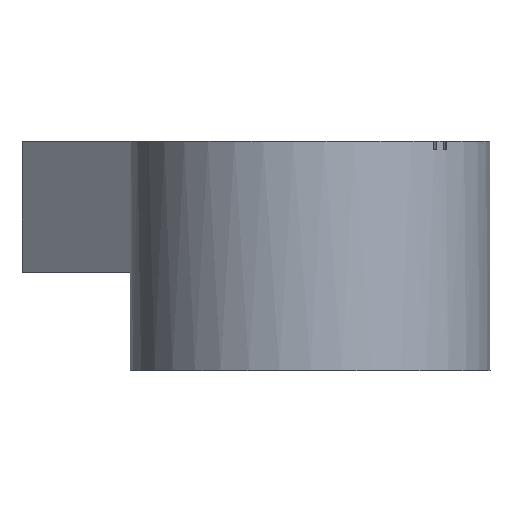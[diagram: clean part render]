
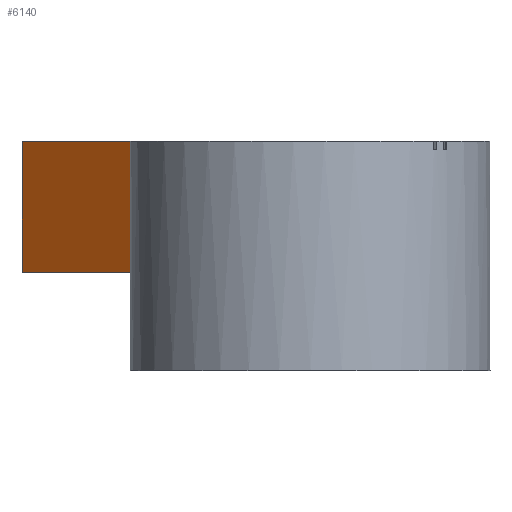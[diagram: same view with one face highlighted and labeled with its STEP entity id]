
A CAD part, left-side view. The second image highlights one B-rep face of the part: STEP entity #6140.
In plain terms, the highlighted planar face has unit normal (-0.768, 0.64, 0) as drawn and (0, 1, 0) by its records, which use the part's own axes.
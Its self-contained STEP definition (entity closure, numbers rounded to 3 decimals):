
#39 = EDGE_CURVE('',#40,#42,#44,.T.);
#40 = VERTEX_POINT('',#41);
#41 = CARTESIAN_POINT('',(4.899,2.5,3.5));
#42 = VERTEX_POINT('',#43);
#43 = CARTESIAN_POINT('',(9.372,2.5,3.5));
#44 = SURFACE_CURVE('',#45,(#49,#61),.PCURVE_S1.);
#45 = LINE('',#46,#47);
#46 = CARTESIAN_POINT('',(0.,2.5,3.5));
#47 = VECTOR('',#48,1.);
#48 = DIRECTION('',(1.,0.,0.));
#49 = PCURVE('',#50,#55);
#50 = PLANE('',#51);
#51 = AXIS2_PLACEMENT_3D('',#52,#53,#54);
#52 = CARTESIAN_POINT('',(0.,0.,3.5));
#53 = DIRECTION('',(0.,0.,1.));
#54 = DIRECTION('',(1.,0.,-0.));
#55 = DEFINITIONAL_REPRESENTATION('',(#56),#60);
#56 = LINE('',#57,#58);
#57 = CARTESIAN_POINT('',(0.,2.5));
#58 = VECTOR('',#59,1.);
#59 = DIRECTION('',(1.,0.));
#60 = ( GEOMETRIC_REPRESENTATION_CONTEXT(2) 
PARAMETRIC_REPRESENTATION_CONTEXT() REPRESENTATION_CONTEXT('2D SPACE',''
  ) );
#61 = PCURVE('',#62,#67);
#62 = PLANE('',#63);
#63 = AXIS2_PLACEMENT_3D('',#64,#65,#66);
#64 = CARTESIAN_POINT('',(0.,2.5,-0.5));
#65 = DIRECTION('',(0.,1.,0.));
#66 = DIRECTION('',(0.,0.,1.));
#67 = DEFINITIONAL_REPRESENTATION('',(#68),#72);
#68 = LINE('',#69,#70);
#69 = CARTESIAN_POINT('',(4.,0.));
#70 = VECTOR('',#71,1.);
#71 = DIRECTION('',(0.,1.));
#72 = ( GEOMETRIC_REPRESENTATION_CONTEXT(2) 
PARAMETRIC_REPRESENTATION_CONTEXT() REPRESENTATION_CONTEXT('2D SPACE',''
  ) );
#91 = CYLINDRICAL_SURFACE('',#92,5.5);
#92 = AXIS2_PLACEMENT_3D('',#93,#94,#95);
#93 = CARTESIAN_POINT('',(0.,0.,-3.5));
#94 = DIRECTION('',(0.,0.,1.));
#95 = DIRECTION('',(1.,0.,-0.));
#785 = PLANE('',#786);
#786 = AXIS2_PLACEMENT_3D('',#787,#788,#789);
#787 = CARTESIAN_POINT('',(9.372,-2.5,-0.5));
#788 = DIRECTION('',(1.,0.,0.));
#789 = DIRECTION('',(0.,0.,1.));
#6140 = ADVANCED_FACE('',(#6141),#62,.T.);
#6141 = FACE_BOUND('',#6142,.T.);
#6142 = EDGE_LOOP('',(#6143,#6173,#6192,#6193));
#6143 = ORIENTED_EDGE('',*,*,#6144,.F.);
#6144 = EDGE_CURVE('',#6145,#6147,#6149,.T.);
#6145 = VERTEX_POINT('',#6146);
#6146 = CARTESIAN_POINT('',(4.899,2.5,-0.5));
#6147 = VERTEX_POINT('',#6148);
#6148 = CARTESIAN_POINT('',(9.372,2.5,-0.5));
#6149 = SURFACE_CURVE('',#6150,(#6154,#6161),.PCURVE_S1.);
#6150 = LINE('',#6151,#6152);
#6151 = CARTESIAN_POINT('',(0.,2.5,-0.5));
#6152 = VECTOR('',#6153,1.);
#6153 = DIRECTION('',(1.,0.,0.));
#6154 = PCURVE('',#62,#6155);
#6155 = DEFINITIONAL_REPRESENTATION('',(#6156),#6160);
#6156 = LINE('',#6157,#6158);
#6157 = CARTESIAN_POINT('',(0.,0.));
#6158 = VECTOR('',#6159,1.);
#6159 = DIRECTION('',(0.,1.));
#6160 = ( GEOMETRIC_REPRESENTATION_CONTEXT(2) 
PARAMETRIC_REPRESENTATION_CONTEXT() REPRESENTATION_CONTEXT('2D SPACE',''
  ) );
#6161 = PCURVE('',#6162,#6167);
#6162 = PLANE('',#6163);
#6163 = AXIS2_PLACEMENT_3D('',#6164,#6165,#6166);
#6164 = CARTESIAN_POINT('',(0.,-2.5,-0.5));
#6165 = DIRECTION('',(0.,0.,1.));
#6166 = DIRECTION('',(1.,0.,0.));
#6167 = DEFINITIONAL_REPRESENTATION('',(#6168),#6172);
#6168 = LINE('',#6169,#6170);
#6169 = CARTESIAN_POINT('',(0.,5.));
#6170 = VECTOR('',#6171,1.);
#6171 = DIRECTION('',(1.,0.));
#6172 = ( GEOMETRIC_REPRESENTATION_CONTEXT(2) 
PARAMETRIC_REPRESENTATION_CONTEXT() REPRESENTATION_CONTEXT('2D SPACE',''
  ) );
#6173 = ORIENTED_EDGE('',*,*,#6174,.T.);
#6174 = EDGE_CURVE('',#6145,#40,#6175,.T.);
#6175 = SURFACE_CURVE('',#6176,(#6180,#6186),.PCURVE_S1.);
#6176 = LINE('',#6177,#6178);
#6177 = CARTESIAN_POINT('',(4.899,2.5,-3.5));
#6178 = VECTOR('',#6179,1.);
#6179 = DIRECTION('',(0.,0.,1.));
#6180 = PCURVE('',#62,#6181);
#6181 = DEFINITIONAL_REPRESENTATION('',(#6182),#6185);
#6182 = B_SPLINE_CURVE_WITH_KNOTS('',1,(#6183,#6184),.UNSPECIFIED.,.F.,
  .F.,(2,2),(2.6,7.),.PIECEWISE_BEZIER_KNOTS.);
#6183 = CARTESIAN_POINT('',(-0.4,4.899));
#6184 = CARTESIAN_POINT('',(4.,4.899));
#6185 = ( GEOMETRIC_REPRESENTATION_CONTEXT(2) 
PARAMETRIC_REPRESENTATION_CONTEXT() REPRESENTATION_CONTEXT('2D SPACE',''
  ) );
#6186 = PCURVE('',#91,#6187);
#6187 = DEFINITIONAL_REPRESENTATION('',(#6188),#6191);
#6188 = B_SPLINE_CURVE_WITH_KNOTS('',1,(#6189,#6190),.UNSPECIFIED.,.F.,
  .F.,(2,2),(2.6,7.),.PIECEWISE_BEZIER_KNOTS.);
#6189 = CARTESIAN_POINT('',(0.472,2.6));
#6190 = CARTESIAN_POINT('',(0.472,7.));
#6191 = ( GEOMETRIC_REPRESENTATION_CONTEXT(2) 
PARAMETRIC_REPRESENTATION_CONTEXT() REPRESENTATION_CONTEXT('2D SPACE',''
  ) );
#6192 = ORIENTED_EDGE('',*,*,#39,.T.);
#6193 = ORIENTED_EDGE('',*,*,#6194,.F.);
#6194 = EDGE_CURVE('',#6147,#42,#6195,.T.);
#6195 = SURFACE_CURVE('',#6196,(#6200,#6207),.PCURVE_S1.);
#6196 = LINE('',#6197,#6198);
#6197 = CARTESIAN_POINT('',(9.372,2.5,-0.5));
#6198 = VECTOR('',#6199,1.);
#6199 = DIRECTION('',(0.,0.,1.));
#6200 = PCURVE('',#62,#6201);
#6201 = DEFINITIONAL_REPRESENTATION('',(#6202),#6206);
#6202 = LINE('',#6203,#6204);
#6203 = CARTESIAN_POINT('',(0.,9.372));
#6204 = VECTOR('',#6205,1.);
#6205 = DIRECTION('',(1.,0.));
#6206 = ( GEOMETRIC_REPRESENTATION_CONTEXT(2) 
PARAMETRIC_REPRESENTATION_CONTEXT() REPRESENTATION_CONTEXT('2D SPACE',''
  ) );
#6207 = PCURVE('',#785,#6208);
#6208 = DEFINITIONAL_REPRESENTATION('',(#6209),#6213);
#6209 = LINE('',#6210,#6211);
#6210 = CARTESIAN_POINT('',(0.,-5.));
#6211 = VECTOR('',#6212,1.);
#6212 = DIRECTION('',(1.,0.));
#6213 = ( GEOMETRIC_REPRESENTATION_CONTEXT(2) 
PARAMETRIC_REPRESENTATION_CONTEXT() REPRESENTATION_CONTEXT('2D SPACE',''
  ) );
